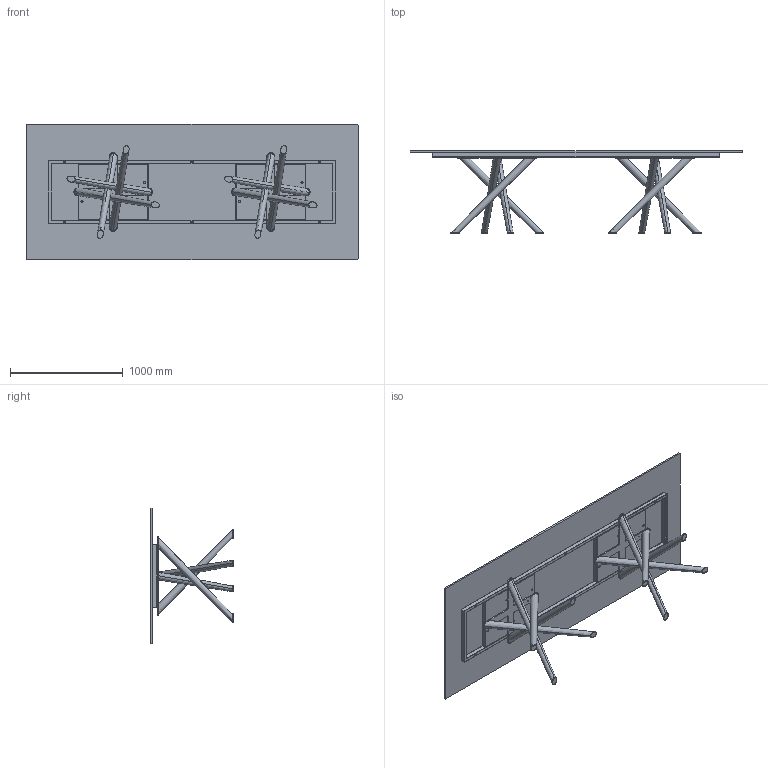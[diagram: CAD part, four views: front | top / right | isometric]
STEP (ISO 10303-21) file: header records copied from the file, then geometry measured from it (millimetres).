
FILE_DESCRIPTION (( 'STEP AP203' ), '1' );
FILE_NAME ('BA29G.STEP', '2024-08-08T06:10:04', ( '' ), ( '' ), 'SwSTEP 2.0', 'SolidWorks 2022', '' );
FILE_SCHEMA (( 'CONFIG_CONTROL_DESIGN' ));
Length unit declared in the file: millimetre
Products named in the file (9): BAB000000_02-00-basamento pali conificati; BA29G; BAB000000_01-00-Croce Superiore baly; BAB000000-00-BALY BASE GREZZA; TTAV03_01-06-RING TUBO TELAIO UNIVERSALE X TAVOLI 300-340cm; TTAV03_02-06-VASSOIO IRRIGIDIMENTO TELAIO UNIVERSALE RETTANGOLARE; C2XCRXX-00-Piani Rettangolari Cristallo_29 2950x1200; TTAV03-06-TELAIO UNIVERSALE X TAVOLI 300-340cm; Parte5^BAB000000-00-BALY BASE GREZZA
Assembly tree (10 placements, depth 3):
  BA29G
    C2XCRXX-00-Piani Rettangolari Cristallo_29 2950x1200
    TTAV03-06-TELAIO UNIVERSALE X TAVOLI 300-340cm
      TTAV03_01-06-RING TUBO TELAIO UNIVERSALE X TAVOLI 300-340cm
      TTAV03_02-06-VASSOIO IRRIGIDIMENTO TELAIO UNIVERSALE RETTANGOLARE  x2
    BAB000000-00-BALY BASE GREZZA  x2
      BAB000000_01-00-Croce Superiore baly
      BAB000000_02-00-basamento pali conificati
      Parte5^BAB000000-00-BALY BASE GREZZA
Bounding box: 2950 x 730 x 1200 mm (x, y, z)
Volume: 62457476.4 mm3; surface area: 13594475.1 mm2
Topology: 22 solids, 22 shells, 560 faces, 1374 edges, 852 vertices
Faces by surface type: plane 274, cylinder 198, cone 64, bspline 16, sphere 8
Entity records: 12652 total; most frequent: CARTESIAN_POINT 3443, DIRECTION 1711, ORIENTED_EDGE 1682, EDGE_CURVE 841, AXIS2_PLACEMENT_3D 594, VERTEX_POINT 526, VECTOR 523, LINE 523
